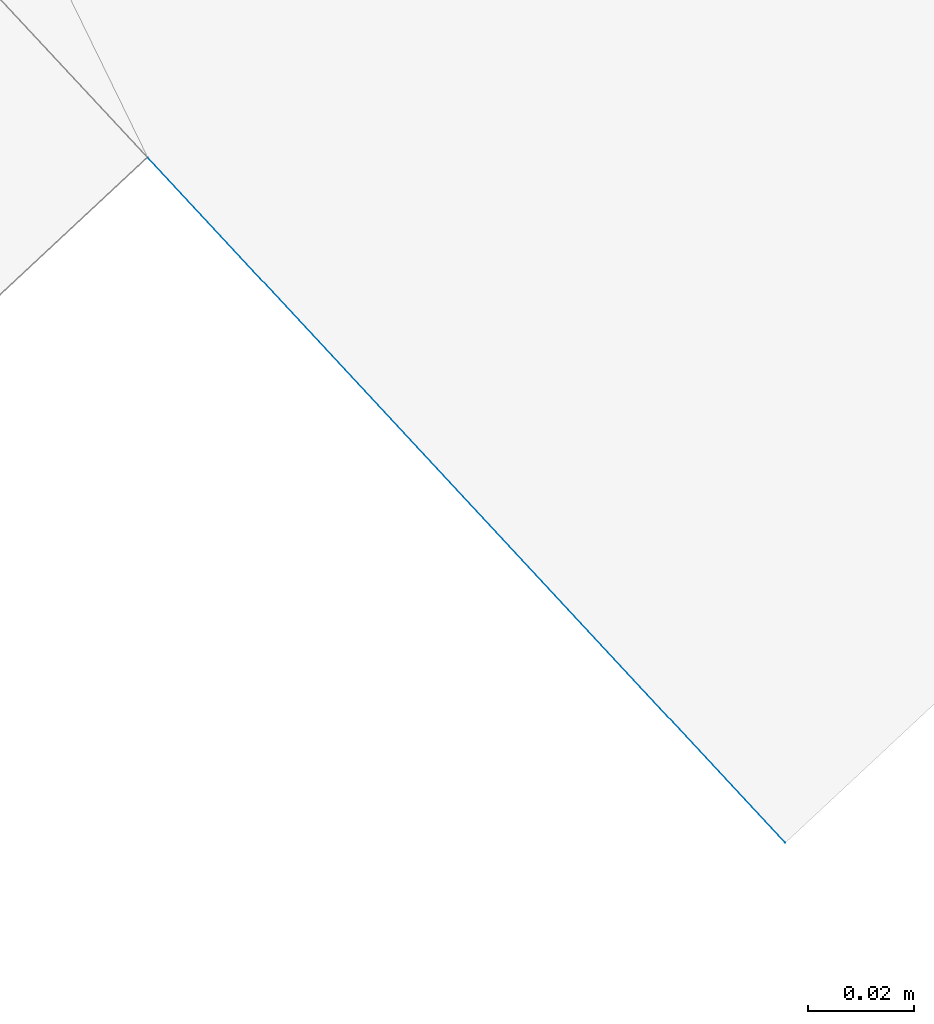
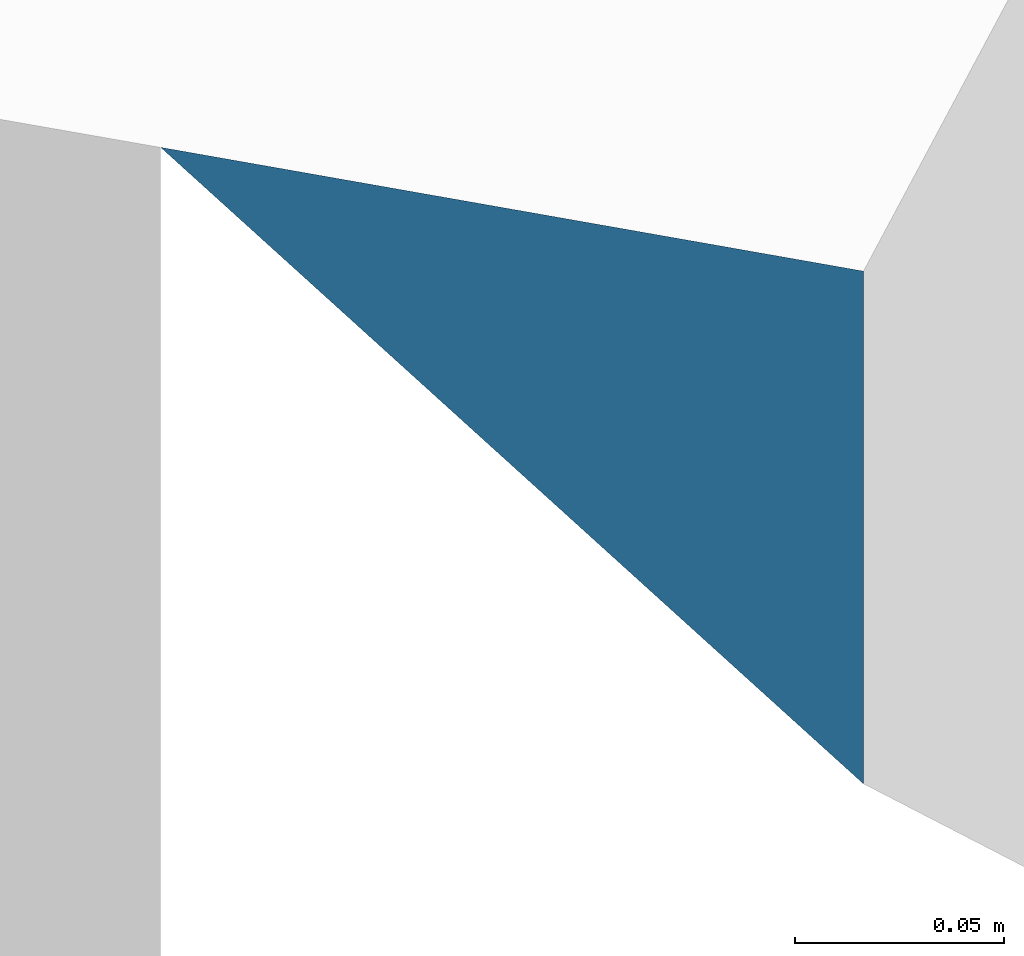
# Not in any storey, part 91 of 136: 1 wall.
"""IFC4 building model written with IfcOpenShell, lengths in metres."""

import ifcopenshell
import ifcopenshell.guid

model = None  # the IFC model being written
_history = None  # IfcOwnerHistory: only IFC2X3 demands one
_inside = {}  # id of a spatial element -> (the spatial element, [elements in it])
_under = {}  # id of a project, library or spatial element -> (it, [spatial elements below it])
_declared = {}  # id of a project -> (the project, [libraries it declares])
_typed = {}  # id of a type object -> (the type object, [elements of that type])
_made_of = {}  # id of a material, layer set ... -> (it, [elements and type objects made of it])


def new_model(schema):
    """Start an empty IFC model of exactly this schema.

    Asked for "IFC4X3", IfcOpenShell would pick the latest addendum, in which some entities
    have other attributes; the version numbers below select the first issue.
    IFC2X3 requires an IfcOwnerHistory on every rooted entity: one is made here for all.
    """
    global model, _history
    if schema == "IFC4X3":
        model = ifcopenshell.file(schema_version=(4, 3, 0, 0))
    else:
        model = ifcopenshell.file(schema=schema)
    _inside.clear()
    _under.clear()
    _declared.clear()
    _typed.clear()
    _made_of.clear()
    _history = None
    if model.schema == "IFC2X3":
        org = make("IfcOrganization", Name="unknown")
        user = make(
            "IfcPersonAndOrganization",
            ThePerson=make("IfcPerson", FamilyName="unknown"),
            TheOrganization=org,
        )
        app = make(
            "IfcApplication",
            ApplicationDeveloper=org,
            Version="unknown",
            ApplicationFullName="unknown",
            ApplicationIdentifier="unknown",
        )
        _history = make(
            "IfcOwnerHistory",
            OwningUser=user,
            OwningApplication=app,
            ChangeAction="ADDED",
            CreationDate=0,
        )
    return model


def make(cls, **values):
    """One entity of the class cls with the attributes given. An attribute that is None is left unset."""
    return model.create_entity(
        cls, **{name: value for name, value in values.items() if value is not None}
    )


def entity(cls, *values):
    """Any entity or typed value of the class cls, its attributes in the order of the schema. None: left unset."""
    e = model.create_entity(cls)
    for i, value in enumerate(values):
        if value is not None:
            e[i] = value
    return e


def rooted(cls, **values):
    """An entity with a GlobalId (a new one), such as an element, a storey or a relation."""
    return make(cls, GlobalId=ifcopenshell.guid.new(), OwnerHistory=_history, **values)


def si_unit(unit_type, name, prefix=None):
    """IfcSIUnit, for example si_unit("LENGTHUNIT", "METRE", prefix="MILLI")."""
    return make("IfcSIUnit", UnitType=unit_type, Prefix=prefix, Name=name)


def converted_unit(unit_type, name, factor, base, dimensions=None, offset=None):
    """IfcConversionBasedUnit, such as the inch: factor (a typed value) times the base unit."""
    return make(
        "IfcConversionBasedUnit"
        if offset is None
        else "IfcConversionBasedUnitWithOffset",
        ConversionOffset=offset,
        Dimensions=None
        if dimensions is None
        else entity("IfcDimensionalExponents", *dimensions),
        UnitType=unit_type,
        Name=name,
        ConversionFactor=make(
            "IfcMeasureWithUnit", ValueComponent=factor, UnitComponent=base
        ),
    )


def assignment(units):
    """IfcUnitAssignment: the units of a project."""
    return None if units is None else make("IfcUnitAssignment", Units=units)


def point(xyz):
    """IfcCartesianPoint."""
    return None if xyz is None else make("IfcCartesianPoint", Coordinates=xyz)


def direction(xyz):
    """IfcDirection."""
    return None if xyz is None else make("IfcDirection", DirectionRatios=xyz)


def frame(location, z_axis=None, x_axis=None):
    """IfcAxis2Placement3D, a coordinate frame: its origin and axes. An axis left out is left unset."""
    return make(
        "IfcAxis2Placement3D",
        Location=point(location),
        Axis=direction(z_axis),
        RefDirection=direction(x_axis),
    )


def origin():
    """The frame at (0, 0, 0) with its axes left unset."""
    return frame((0.0, 0.0, 0.0))


def place(relative_to, where):
    """IfcLocalPlacement: puts the frame where relative to a parent placement (None: the world)."""
    return make(
        "IfcLocalPlacement", PlacementRelTo=relative_to, RelativePlacement=where
    )


def context(
    kind, dimensions, precision=None, world=None, true_north=None, identifier=None
):
    """IfcGeometricRepresentationContext, for example the 3D "Model" context."""
    return make(
        "IfcGeometricRepresentationContext",
        ContextIdentifier=identifier,
        ContextType=kind,
        CoordinateSpaceDimension=dimensions,
        Precision=precision,
        WorldCoordinateSystem=world,
        TrueNorth=true_north,
    )


def subcontext(parent, identifier, kind, view, scale=None):
    """IfcGeometricRepresentationSubContext, for example "Body" below "Model"."""
    return make(
        "IfcGeometricRepresentationSubContext",
        ContextIdentifier=identifier,
        ContextType=kind,
        ParentContext=parent,
        TargetScale=scale,
        TargetView=view,
    )


def project(units=None, contexts=None):
    """IfcProject with its units and contexts."""
    return rooted(
        "IfcProject",
        Name="project",
        RepresentationContexts=contexts,
        UnitsInContext=assignment(units),
    )


def spatial(cls, under=None, at=None, **own):
    """A site, building, storey or space (cls), placed at a placement, below another one or the project."""
    s = rooted(cls, ObjectPlacement=at, **own)
    if under is not None:
        _under.setdefault(under.id(), (under, []))[1].append(s)
    return s


def faces_of(points, faces, orient=None, outer=None):
    """IfcFace entities. A face is a list of loops; a loop is a list of indices into points, from 0.

    orient and outer hold one flag for each loop. By default every Orientation is true, the
    first loop of a face is its IfcFaceOuterBound and the others are IfcFaceBound.
    """
    made = []
    for i, loops in enumerate(faces):
        bounds = []
        for j, loop in enumerate(loops):
            is_outer = j == 0 if outer is None else outer[i][j]
            bounds.append(
                make(
                    "IfcFaceOuterBound" if is_outer else "IfcFaceBound",
                    Bound=make("IfcPolyLoop", Polygon=[points[k] for k in loop]),
                    Orientation=True if orient is None else orient[i][j],
                )
            )
        made.append(make("IfcFace", Bounds=bounds))
    return made


def face_set(faces, orient=None, outer=None):
    """The faces of one IfcConnectedFaceSet. surface_model builds it on its shared points."""
    return ("IfcConnectedFaceSet", faces, orient, outer)


def surface_model(cls, points, shells):
    """IfcFaceBasedSurfaceModel or IfcShellBasedSurfaceModel (cls): surfaces that need not close."""
    shared = [point(p) for p in points]
    made = [make(c, CfsFaces=faces_of(shared, fs, o, b)) for c, fs, o, b in shells]
    if cls == "IfcFaceBasedSurfaceModel":
        return make(cls, FbsmFaces=made)
    return make(cls, SbsmBoundary=made)


def shape(context_of_items, identifier, shape_type, items):
    """IfcShapeRepresentation: the items that make up one representation, for example the "Body"."""
    return make(
        "IfcShapeRepresentation",
        ContextOfItems=context_of_items,
        RepresentationIdentifier=identifier,
        RepresentationType=shape_type,
        Items=items,
    )


def made_of(thing, what):
    """Note that an element or type object is made of a material, layer set ...; save() writes the relation."""
    if what is not None:
        _made_of.setdefault(what.id(), (what, []))[1].append(thing)
    return thing


def element(
    cls,
    number,
    at=None,
    inside=None,
    cuts=None,
    type_object=None,
    material=None,
    context=None,
    identifier="Body",
    shape_type=None,
    held_by="IfcProductDefinitionShape",
    body=None,
    shapes=None,
    **own,
):
    """One element of the class cls, such as IfcWall. Its Tag is "e" and its number.

    at: its placement. inside: the storey or other place that contains it. cuts: it is an
    opening in that element (IfcRelVoidsElement). A single representation is given by context,
    identifier, shape_type and body (its items); several are given by shapes. held_by: the class
    of the entity that holds the representations. save() writes the other relations.
    """
    e = rooted(cls, Tag="e%d" % number, ObjectPlacement=at, **own)
    if body is not None:
        shapes = [shape(context, identifier, shape_type, body)]
    if shapes is not None:
        e.Representation = make(held_by, Representations=shapes)
    if inside is not None:
        _inside.setdefault(inside.id(), (inside, []))[1].append(e)
    if cuts is not None:
        rooted(
            "IfcRelVoidsElement", RelatingBuildingElement=cuts, RelatedOpeningElement=e
        )
    if type_object is not None:
        _typed.setdefault(type_object.id(), (type_object, []))[1].append(e)
    return made_of(e, material)


def aggregate(whole, parts):
    """IfcRelAggregates: a whole, such as a stair, and the parts it consists of."""
    return rooted("IfcRelAggregates", RelatingObject=whole, RelatedObjects=parts)


def save(model, path):
    """Write the relations noted so far, then the file.

    IfcRelAggregates (storeys below a building ...), IfcRelContainedInSpatialStructure (elements
    in a storey), IfcRelDefinesByType, IfcRelAssociatesMaterial and IfcRelDeclares: one each for
    every whole, place, type object, material and project.
    """
    for whole, parts in _under.values():
        aggregate(whole, parts)
    for where, things in _inside.values():
        rooted(
            "IfcRelContainedInSpatialStructure",
            RelatedElements=things,
            RelatingStructure=where,
        )
    for kind, things in _typed.values():
        rooted("IfcRelDefinesByType", RelatedObjects=things, RelatingType=kind)
    for what, things in _made_of.values():
        rooted("IfcRelAssociatesMaterial", RelatedObjects=things, RelatingMaterial=what)
    for by, libraries in _declared.values():
        rooted("IfcRelDeclares", RelatingContext=by, RelatedDefinitions=libraries)
    model.write(path)


model = new_model("IFC4")

# Units and contexts
model_context = context("Model", 3, precision=1e-05, world=origin())
body_context = subcontext(model_context, "Body", "Model", "MODEL_VIEW")
ifc_project = project(units=[converted_unit("PLANEANGLEUNIT", "DEGREE", entity("IfcRatioMeasure", 0.0174532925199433), si_unit("PLANEANGLEUNIT", "RADIAN"), dimensions=[0, 0, 0, 0, 0, 0, 0]), si_unit("AREAUNIT", "SQUARE_METRE"), si_unit("LENGTHUNIT", "METRE")], contexts=[model_context])

# Site, building
site_placement = place(None, origin())
site = spatial("IfcSite", under=ifc_project, at=site_placement, Name="_site")
building_placement = place(site_placement, origin())
building = spatial("IfcBuilding", under=site, at=building_placement, Name="_building")

# Wall
wall_placement = place(building_placement, origin())
element("IfcWall", 1, at=wall_placement, inside=building, Name="Wall", PredefinedType="NOTDEFINED", context=body_context, shape_type="SurfaceModel", body=[
    surface_model("IfcFaceBasedSurfaceModel", [(150.13, -45.899, 51.89), (150.01, -45.77, 51.89), (150.13, -45.899, 51.74)], [face_set([[[0, 1, 2]]])]),
])

save(model, "model.ifc")
